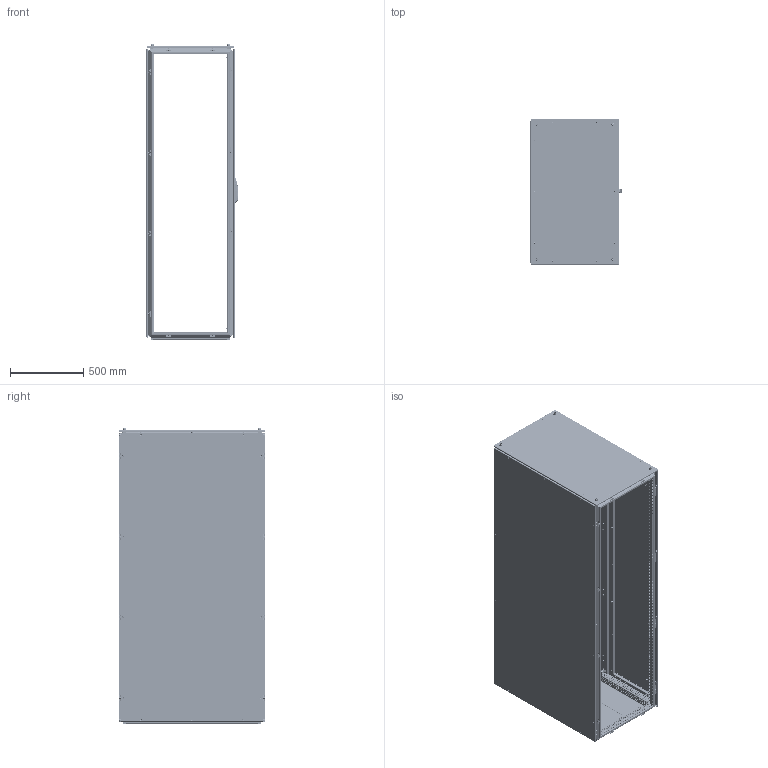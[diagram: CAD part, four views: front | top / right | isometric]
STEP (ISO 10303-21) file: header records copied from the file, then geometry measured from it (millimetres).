
FILE_DESCRIPTION(('STEP AP203'), '1');
FILE_NAME('ØÍÑ ÊÑ PRO II Êîðïóñ ÑÁ', '', ('UNSPECIFIED'), ('UNSPECIFIED'), 'C3D Converter', 'C3D Toolkit', '');
FILE_SCHEMA(('CONFIG_CONTROL_DESIGN'));
Length unit declared in the file: millimetre
Products named in the file (56): 3210.200.100.60; 3000; 3007.175; 3007.75; 3007.200; 3006; 3009.04; 3009.04.01; 3009.04.2; 3009.04.01.2; 3301; 3310; 3311; 3302; 3211; 3409; 3415; 3425; 3426; 3422.01; 3412; 3411; 2952; 3009.05; 3009.05.01; 3622.01; 3417; 3427; 3010
Assembly tree (393 placements, depth 6):
  3210.200.100.60
    3000
      3000
      (unnamed)  x96
      3007.175  x2
      (unnamed)  x22
      3007.75  x2
      3007.200  x2
      3006
      3009.04  x10
        3009.04.01
        (unnamed)
        (unnamed)
      3009.04.2  x15
        3009.04.01.2
        (unnamed)
        (unnamed)
    3301
      3310
        3311
        (unnamed)
      (unnamed)  x10
      (unnamed)  x10
      (unnamed)  x4
      (unnamed)  x4
    3302
      3211
      (unnamed)  x2
      (unnamed)  x14
    3409
      3415
        3425
          3426
          3422.01  x4
          (unnamed)  x12
          (unnamed)  x8
          (unnamed)  x2
        3412  x2
        3411  x2
        (unnamed)  x4
        (unnamed)  x12
        (unnamed)  x20
        (unnamed)  x8
        2952
          (unnamed)
            (unnamed)
            (unnamed)
            (unnamed)
            (unnamed)
            (unnamed)
        (unnamed)  x2
        3009.05  x4
          3009.05.01
          (unnamed)
          (unnamed)
        3622.01  x4
        (unnamed)  x4
      3417
        3427
          3426
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Bounding box: 623.93 x 997 x 2016 mm (x, y, z)
Volume: 13932056 mm3; surface area: 17742870.8 mm2
Topology: 506 solids, 506 shells, 28110 faces, 76808 edges, 50366 vertices
Faces by surface type: plane 18478, cylinder 6791, cone 1563, bspline 691, torus 458, extrusion 90, sphere 39
Full cylindrical faces by diameter (mm): 0.5 x32, 2.6 x8, 3.71 x8, 4.134 x144, 4.3 x2, 4.5 x2442, 4.8 x24, 4.917 x32, 5 x200, 5.2 x1, 5.5 x10, 5.8 x48, 6 x77, 6.1 x8, 6.4 x8, 6.6 x32, 6.75 x32, 6.8 x200, 7 x104, 7.3 x32, 7.5 x92, 8 x132, 8.3 x16, 8.5 x11, 9.2 x82, 10 x45, 10.106 x8, 10.5 x10, 11.5 x14, 12 x44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
Entity records: 695447 total; most frequent: CARTESIAN_POINT 267651, ORIENTED_EDGE 81474, DIRECTION 76045, EDGE_CURVE 40737, VECTOR 31361, LINE 31316, VERTEX_POINT 28485, EDGE_LOOP 26820
